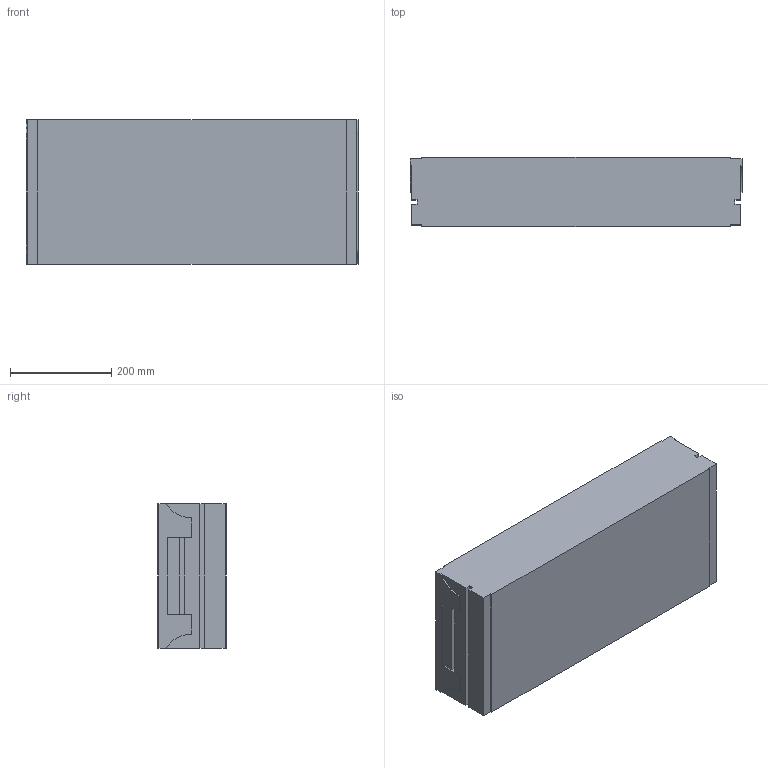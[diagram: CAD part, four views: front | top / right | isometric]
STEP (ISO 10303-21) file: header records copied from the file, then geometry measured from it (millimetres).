
FILE_DESCRIPTION (( 'STEP AP214' ), '1' );
FILE_NAME ('02.150M01.650.N FS-MTC-150 Kettingmont. eenheid.STEP', '2013-03-21T10:14:25', ( 'Gebruiker' ), ( '' ), 'SwSTEP 2.0', 'SolidWorks 2012', '' );
FILE_SCHEMA (( 'AUTOMOTIVE_DESIGN' ));
Length unit declared in the file: millimetre
Products named in the file (1): 02.150M01.650.N FS-MTC-150 Kettingmont. eenheid
Bounding box: 656.5 x 136 x 285 mm (x, y, z)
Volume: 25128684.8 mm3; surface area: 648634.9 mm2
Topology: 1 solids, 1 shells, 46 faces, 132 edges, 88 vertices
Faces by surface type: plane 42, cylinder 4
Entity records: 1518 total; most frequent: CARTESIAN_POINT 267, ORIENTED_EDGE 264, DIRECTION 234, EDGE_CURVE 132, VECTOR 124, LINE 124, VERTEX_POINT 88, AXIS2_PLACEMENT_3D 55
